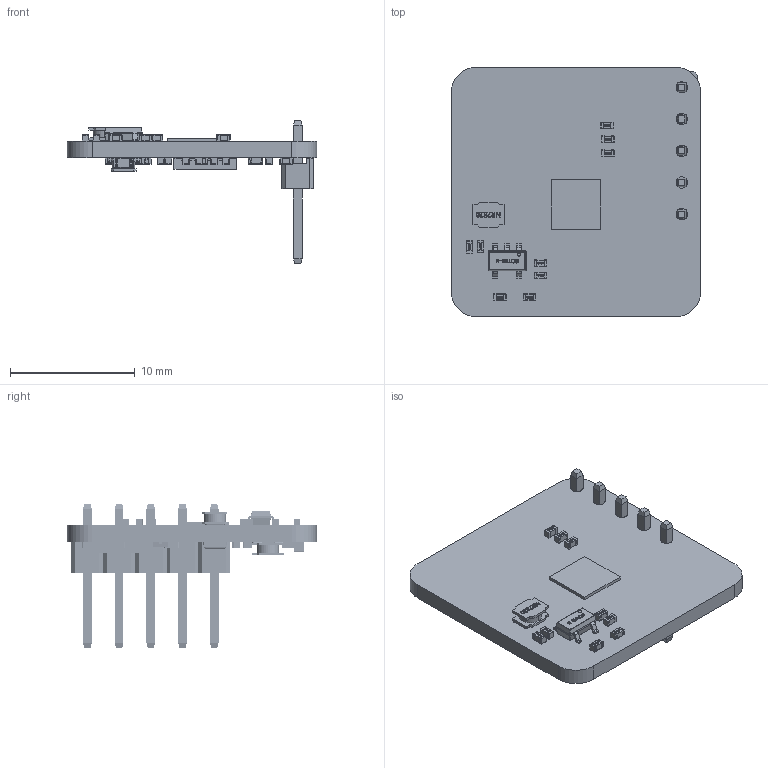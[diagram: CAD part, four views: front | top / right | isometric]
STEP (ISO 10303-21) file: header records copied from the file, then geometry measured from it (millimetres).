
FILE_DESCRIPTION(('Open CASCADE Model'),'2;1');
FILE_NAME('Open CASCADE Shape Model','2023-12-16T15:48:16',('Author'),( 'Open CASCADE'),'Open CASCADE STEP processor 6.8','Open CASCADE 6.8' ,'Unknown');
FILE_SCHEMA(('AUTOMOTIVE_DESIGN { 1 0 10303 214 1 1 1 1 }'));
Length unit declared in the file: millimetre
Products named in the file (81): PCB; Board; Open CASCADE STEP translator 6.8 1.1.1; U2; 5812194096; Extruded; J2; HDR2.54-1P; LOGO?; Y1; OSC_2025-4; LOGO?0.15; C10; C_0402; C12; C9; C8; C3; C5; C13; C15; C14; C16; C17; C18; C4; C_0603; 5016857600; 5016857440; L1; NR2520; L2; R11; R12; R3; R6; R7; R2; R10; R9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
Assembly tree (158 placements, depth 4):
  PCB
    Board
      Open CASCADE STEP translator 6.8 1.1.1
    U2
      5812194096
        Extruded
    J2
      HDR2.54-1P  x5
        HDR2.54-1P
        LOGO?
    Y1
      OSC_2025-4
        OSC_2025-4
        LOGO?0.15
    C10
      C_0402
        LOGO?
        C_0402
    C12
      C_0402
        LOGO?
        C_0402
    C9
      C_0402
        LOGO?
        C_0402
    C8
      C_0402
        LOGO?
        C_0402
    C3
      C_0402
        LOGO?
        C_0402
    C5
      C_0402
        LOGO?
        C_0402
    C13
      C_0402
        LOGO?
        C_0402
    C15
      C_0402
        LOGO?
        C_0402
    C14
      C_0402
        LOGO?
        C_0402
    C16
      C_0402
        LOGO?
        C_0402
    C17
      C_0402
        LOGO?
        C_0402
    C18
      C_0402
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Bounding box: 20 x 20 x 11.5 mm (x, y, z)
Volume: 659.3 mm3; surface area: 1618.3 mm2
Topology: 869 solids, 869 shells, 10533 faces, 24411 edges, 15625 vertices
Faces by surface type: plane 5593, bspline 2732, cylinder 1799, sphere 345, torus 46, revolution 18
Full cylindrical faces by diameter (mm): 0.9 x5
Entity records: 83511 total; most frequent: CARTESIAN_POINT 30744, ORIENTED_EDGE 8666, DIRECTION 6603, EDGE_CURVE 4333, VERTEX_POINT 2833, LINE 2693, VECTOR 2693, FACE_BOUND 1958
